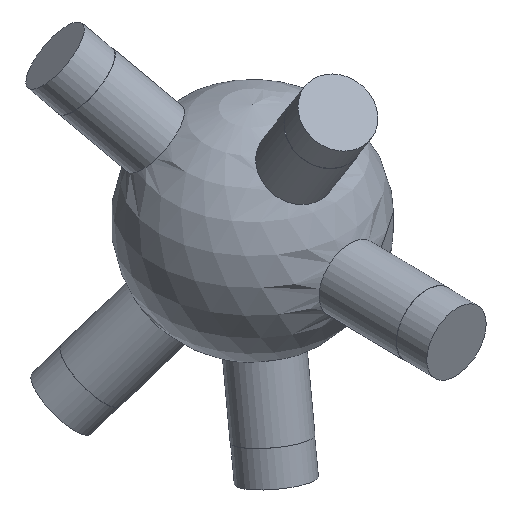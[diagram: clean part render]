
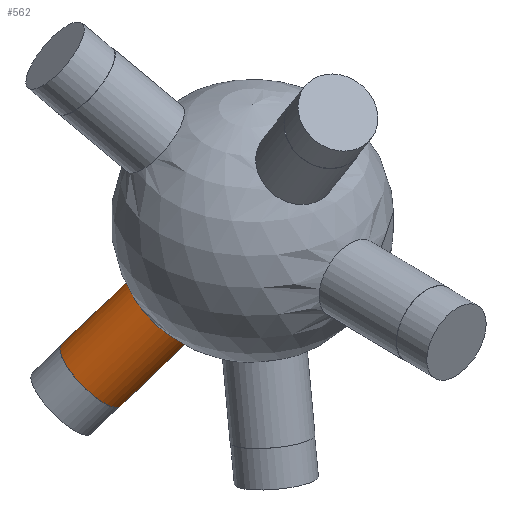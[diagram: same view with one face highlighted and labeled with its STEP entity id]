
A CAD part, isometric view. The second image highlights one B-rep face of the part: STEP entity #562.
In plain terms, the highlighted cylindrical face has radius 6 mm (diameter 12 mm), a full revolution.
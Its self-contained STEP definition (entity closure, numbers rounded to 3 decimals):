
#25 = EDGE_CURVE('',#26,#26,#28,.T.);
#26 = VERTEX_POINT('',#27);
#27 = CARTESIAN_POINT('',(-15.694,7.529,-9.849
    ));
#28 = SURFACE_CURVE('',#29,(#34,#115),.PCURVE_S1.);
#29 = CIRCLE('',#30,6.);
#30 = AXIS2_PLACEMENT_3D('',#31,#32,#33);
#31 = CARTESIAN_POINT('',(-11.031,7.529,-13.625)
  );
#32 = DIRECTION('',(-0.578,0.395,-0.714));
#33 = DIRECTION('',(0.777,0.,-0.629));
#34 = PCURVE('',#35,#40);
#35 = SPHERICAL_SURFACE('',#36,20.);
#36 = AXIS2_PLACEMENT_3D('',#37,#38,#39);
#37 = CARTESIAN_POINT('',(0.,0.,0.));
#38 = DIRECTION('',(0.,0.,1.));
#39 = DIRECTION('',(1.,0.,-0.));
#40 = DEFINITIONAL_REPRESENTATION('',(#41),#114);
#41 = B_SPLINE_CURVE_WITH_KNOTS('',8,(#42,#43,#44,#45,#46,#47,#48,#49,
    #50,#51,#52,#53,#54,#55,#56,#57,#58,#59,#60,#61,#62,#63,#64,#65,#66,
    #67,#68,#69,#70,#71,#72,#73,#74,#75,#76,#77,#78,#79,#80,#81,#82,#83,
    #84,#85,#86,#87,#88,#89,#90,#91,#92,#93,#94,#95,#96,#97,#98,#99,#100
    ,#101,#102,#103,#104,#105,#106,#107,#108,#109,#110,#111,#112,#113),
  .UNSPECIFIED.,.T.,.F.,(9,7,7,7,7,7,7,7,7,7,9),(3.142,
    3.927,4.614,5.216,5.742,
    6.202,6.605,6.957,7.574,
    8.5,9.425),.UNSPECIFIED.);
#42 = CARTESIAN_POINT('',(2.694,-0.515));
#43 = CARTESIAN_POINT('',(2.663,-0.505));
#44 = CARTESIAN_POINT('',(2.63,-0.497));
#45 = CARTESIAN_POINT('',(2.597,-0.491));
#46 = CARTESIAN_POINT('',(2.564,-0.488));
#47 = CARTESIAN_POINT('',(2.53,-0.488));
#48 = CARTESIAN_POINT('',(2.496,-0.491));
#49 = CARTESIAN_POINT('',(2.463,-0.496));
#50 = CARTESIAN_POINT('',(2.402,-0.51));
#51 = CARTESIAN_POINT('',(2.375,-0.519));
#52 = CARTESIAN_POINT('',(2.347,-0.53));
#53 = CARTESIAN_POINT('',(2.321,-0.542));
#54 = CARTESIAN_POINT('',(2.295,-0.556));
#55 = CARTESIAN_POINT('',(2.271,-0.572));
#56 = CARTESIAN_POINT('',(2.248,-0.589));
#57 = CARTESIAN_POINT('',(2.207,-0.624));
#58 = CARTESIAN_POINT('',(2.19,-0.642));
#59 = CARTESIAN_POINT('',(2.173,-0.66));
#60 = CARTESIAN_POINT('',(2.158,-0.68));
#61 = CARTESIAN_POINT('',(2.144,-0.7));
#62 = CARTESIAN_POINT('',(2.133,-0.721));
#63 = CARTESIAN_POINT('',(2.123,-0.742));
#64 = CARTESIAN_POINT('',(2.108,-0.783));
#65 = CARTESIAN_POINT('',(2.103,-0.802));
#66 = CARTESIAN_POINT('',(2.099,-0.822));
#67 = CARTESIAN_POINT('',(2.098,-0.842));
#68 = CARTESIAN_POINT('',(2.098,-0.862));
#69 = CARTESIAN_POINT('',(2.101,-0.881));
#70 = CARTESIAN_POINT('',(2.106,-0.901));
#71 = CARTESIAN_POINT('',(2.121,-0.937));
#72 = CARTESIAN_POINT('',(2.131,-0.953));
#73 = CARTESIAN_POINT('',(2.142,-0.969));
#74 = CARTESIAN_POINT('',(2.156,-0.985));
#75 = CARTESIAN_POINT('',(2.172,-1.));
#76 = CARTESIAN_POINT('',(2.191,-1.014));
#77 = CARTESIAN_POINT('',(2.212,-1.027));
#78 = CARTESIAN_POINT('',(2.258,-1.05));
#79 = CARTESIAN_POINT('',(2.281,-1.06));
#80 = CARTESIAN_POINT('',(2.306,-1.068));
#81 = CARTESIAN_POINT('',(2.333,-1.076));
#82 = CARTESIAN_POINT('',(2.362,-1.083));
#83 = CARTESIAN_POINT('',(2.392,-1.089));
#84 = CARTESIAN_POINT('',(2.424,-1.093));
#85 = CARTESIAN_POINT('',(2.485,-1.099));
#86 = CARTESIAN_POINT('',(2.514,-1.1));
#87 = CARTESIAN_POINT('',(2.543,-1.101));
#88 = CARTESIAN_POINT('',(2.572,-1.101));
#89 = CARTESIAN_POINT('',(2.601,-1.099));
#90 = CARTESIAN_POINT('',(2.63,-1.097));
#91 = CARTESIAN_POINT('',(2.658,-1.093));
#92 = CARTESIAN_POINT('',(2.732,-1.081));
#93 = CARTESIAN_POINT('',(2.776,-1.071));
#94 = CARTESIAN_POINT('',(2.816,-1.058));
#95 = CARTESIAN_POINT('',(2.851,-1.042));
#96 = CARTESIAN_POINT('',(2.882,-1.025));
#97 = CARTESIAN_POINT('',(2.907,-1.006));
#98 = CARTESIAN_POINT('',(2.928,-0.986));
#99 = CARTESIAN_POINT('',(2.97,-0.933));
#100 = CARTESIAN_POINT('',(2.985,-0.899));
#101 = CARTESIAN_POINT('',(2.992,-0.864));
#102 = CARTESIAN_POINT('',(2.991,-0.829));
#103 = CARTESIAN_POINT('',(2.985,-0.794));
#104 = CARTESIAN_POINT('',(2.973,-0.76));
#105 = CARTESIAN_POINT('',(2.957,-0.727));
#106 = CARTESIAN_POINT('',(2.916,-0.665));
#107 = CARTESIAN_POINT('',(2.892,-0.636));
#108 = CARTESIAN_POINT('',(2.865,-0.608));
#109 = CARTESIAN_POINT('',(2.835,-0.584));
#110 = CARTESIAN_POINT('',(2.802,-0.562));
#111 = CARTESIAN_POINT('',(2.768,-0.543));
#112 = CARTESIAN_POINT('',(2.732,-0.527));
#113 = CARTESIAN_POINT('',(2.694,-0.515));
#114 = ( GEOMETRIC_REPRESENTATION_CONTEXT(2) 
PARAMETRIC_REPRESENTATION_CONTEXT() REPRESENTATION_CONTEXT('2D SPACE',''
  ) );
#115 = PCURVE('',#116,#121);
#116 = CYLINDRICAL_SURFACE('',#117,6.);
#117 = AXIS2_PLACEMENT_3D('',#118,#119,#120);
#118 = CARTESIAN_POINT('',(0.,0.,0.));
#119 = DIRECTION('',(-0.578,0.395,-0.714));
#120 = DIRECTION('',(-0.777,0.,0.629)
  );
#121 = DEFINITIONAL_REPRESENTATION('',(#122),#126);
#122 = LINE('',#123,#124);
#123 = CARTESIAN_POINT('',(-3.142,19.079));
#124 = VECTOR('',#125,1.);
#125 = DIRECTION('',(1.,0.));
#126 = ( GEOMETRIC_REPRESENTATION_CONTEXT(2) 
PARAMETRIC_REPRESENTATION_CONTEXT() REPRESENTATION_CONTEXT('2D SPACE',''
  ) );
#562 = ADVANCED_FACE('',(#563),#116,.T.);
#563 = FACE_BOUND('',#564,.T.);
#564 = EDGE_LOOP('',(#565,#588,#615,#616));
#565 = ORIENTED_EDGE('',*,*,#566,.T.);
#566 = EDGE_CURVE('',#26,#567,#569,.T.);
#567 = VERTEX_POINT('',#568);
#568 = CARTESIAN_POINT('',(-23.849,13.094,
    -19.92));
#569 = SEAM_CURVE('',#570,(#574,#581),.PCURVE_S1.);
#570 = LINE('',#571,#572);
#571 = CARTESIAN_POINT('',(-4.663,0.,
    3.776));
#572 = VECTOR('',#573,1.);
#573 = DIRECTION('',(-0.578,0.395,-0.714));
#574 = PCURVE('',#116,#575);
#575 = DEFINITIONAL_REPRESENTATION('',(#576),#580);
#576 = LINE('',#577,#578);
#577 = CARTESIAN_POINT('',(6.283,-0.));
#578 = VECTOR('',#579,1.);
#579 = DIRECTION('',(0.,1.));
#580 = ( GEOMETRIC_REPRESENTATION_CONTEXT(2) 
PARAMETRIC_REPRESENTATION_CONTEXT() REPRESENTATION_CONTEXT('2D SPACE',''
  ) );
#581 = PCURVE('',#116,#582);
#582 = DEFINITIONAL_REPRESENTATION('',(#583),#587);
#583 = LINE('',#584,#585);
#584 = CARTESIAN_POINT('',(0.,-0.));
#585 = VECTOR('',#586,1.);
#586 = DIRECTION('',(0.,1.));
#587 = ( GEOMETRIC_REPRESENTATION_CONTEXT(2) 
PARAMETRIC_REPRESENTATION_CONTEXT() REPRESENTATION_CONTEXT('2D SPACE',''
  ) );
#588 = ORIENTED_EDGE('',*,*,#589,.F.);
#589 = EDGE_CURVE('',#567,#567,#590,.T.);
#590 = SURFACE_CURVE('',#591,(#596,#603),.PCURVE_S1.);
#591 = CIRCLE('',#592,6.);
#592 = AXIS2_PLACEMENT_3D('',#593,#594,#595);
#593 = CARTESIAN_POINT('',(-19.186,13.094,
    -23.696));
#594 = DIRECTION('',(-0.578,0.395,-0.714));
#595 = DIRECTION('',(-0.777,0.,0.629)
  );
#596 = PCURVE('',#116,#597);
#597 = DEFINITIONAL_REPRESENTATION('',(#598),#602);
#598 = LINE('',#599,#600);
#599 = CARTESIAN_POINT('',(0.,33.182));
#600 = VECTOR('',#601,1.);
#601 = DIRECTION('',(1.,0.));
#602 = ( GEOMETRIC_REPRESENTATION_CONTEXT(2) 
PARAMETRIC_REPRESENTATION_CONTEXT() REPRESENTATION_CONTEXT('2D SPACE',''
  ) );
#603 = PCURVE('',#604,#609);
#604 = PLANE('',#605);
#605 = AXIS2_PLACEMENT_3D('',#606,#607,#608);
#606 = CARTESIAN_POINT('',(-19.186,13.094,
    -23.696));
#607 = DIRECTION('',(-0.578,0.395,-0.714));
#608 = DIRECTION('',(-0.777,0.,0.629)
  );
#609 = DEFINITIONAL_REPRESENTATION('',(#610),#614);
#610 = CIRCLE('',#611,6.);
#611 = AXIS2_PLACEMENT_2D('',#612,#613);
#612 = CARTESIAN_POINT('',(0.,0.));
#613 = DIRECTION('',(1.,0.));
#614 = ( GEOMETRIC_REPRESENTATION_CONTEXT(2) 
PARAMETRIC_REPRESENTATION_CONTEXT() REPRESENTATION_CONTEXT('2D SPACE',''
  ) );
#615 = ORIENTED_EDGE('',*,*,#566,.F.);
#616 = ORIENTED_EDGE('',*,*,#25,.T.);
